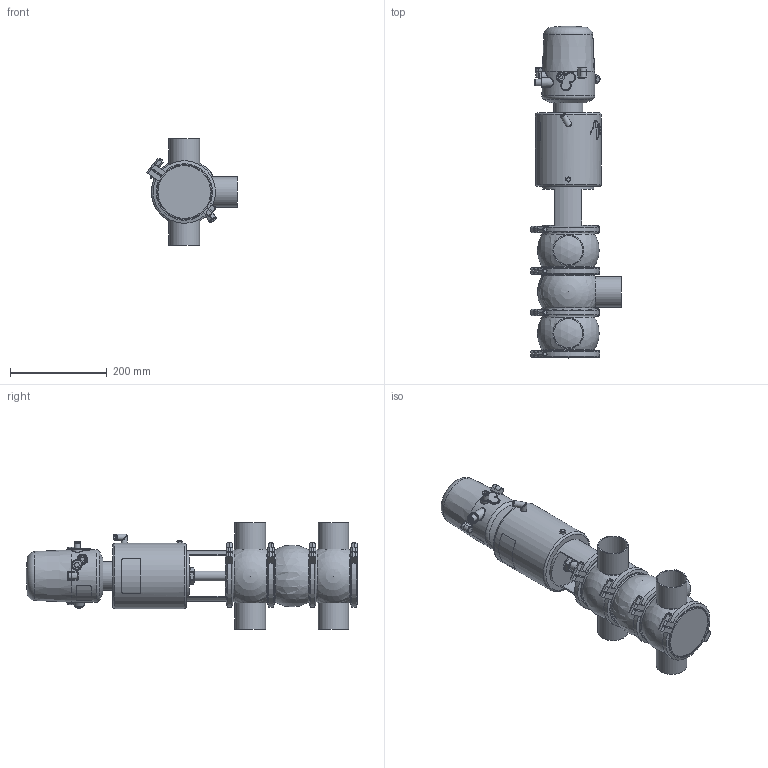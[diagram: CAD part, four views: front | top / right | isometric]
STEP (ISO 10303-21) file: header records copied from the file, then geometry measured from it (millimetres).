
FILE_DESCRIPTION (( 'STEP AP214' ), '1' );
FILE_NAME ('INNOVA L W W OD 2½ T3 AS NC & C-TOP S_10.241.16.0064.STEP', '2024-08-06T12:22:40', ( '' ), ( '' ), 'SwSTEP 2.0', 'SolidWorks 2023', '' );
FILE_SCHEMA (( 'AUTOMOTIVE_DESIGN' ));
Length unit declared in the file: millimetre
Products named in the file (9): 10.426.15.0001_C-TOP S - 1 EV; 10.240.15.0006_OD 2½"; 10.240.15.0010_DN 065; 10.240.15.0017_Estàndard; 10.240.15.0001_DN 065; 10.240.15.0007_OD 2½"; 10.241.15.0001_DIN 065; INNOVA L W W OD 2½ T3 AS NC & C-TOP S_10.241.16.0064; 10.240.15.0014_T3 AS P180
Assembly tree (12 placements, depth 2):
  INNOVA L W W OD 2½ T3 AS NC & C-TOP S_10.241.16.0064
    10.240.15.0007_OD 2½"  x2
    10.240.15.0006_OD 2½"
    10.240.15.0010_DN 065
    10.240.15.0014_T3 AS P180
    10.240.15.0017_Estàndard
    10.426.15.0001_C-TOP S - 1 EV
    10.240.15.0001_DN 065  x4
    10.241.15.0001_DIN 065
Bounding box: 188.15 x 687.5 x 220 mm (x, y, z)
Volume: 7096996.4 mm3; surface area: 648626.5 mm2
Topology: 13 solids, 13 shells, 1315 faces, 3201 edges, 2124 vertices
Faces by surface type: plane 479, cylinder 407, cone 221, bspline 160, torus 36, sphere 12
Full cylindrical faces by diameter (mm): 0.371 x17, 0.512 x16, 0.658 x16, 0.795 x16, 0.94 x15, 1.098 x15, 1.241 x13, 1.382 x13, 1.523 x11, 1.669 x10, 2.201 x1, 4 x2, 5.5 x2, 6 x2, 6.15 x1, 8 x10, 8.5 x1, 10 x1, 10.5 x1, 11 x2, 12.5 x3, 13 x2, 13.5 x2, 16 x1, 17 x3, 20 x3, 20.5 x1, 22 x2, 31 x1, 34.5 x3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
Entity records: 58121 total; most frequent: CARTESIAN_POINT 27775, ORIENTED_EDGE 4516, DIRECTION 3677, EDGE_CURVE 2258, VERTEX_POINT 1609, EDGE_LOOP 1579, AXIS2_PLACEMENT_3D 1510, FACE_OUTER_BOUND 1339
